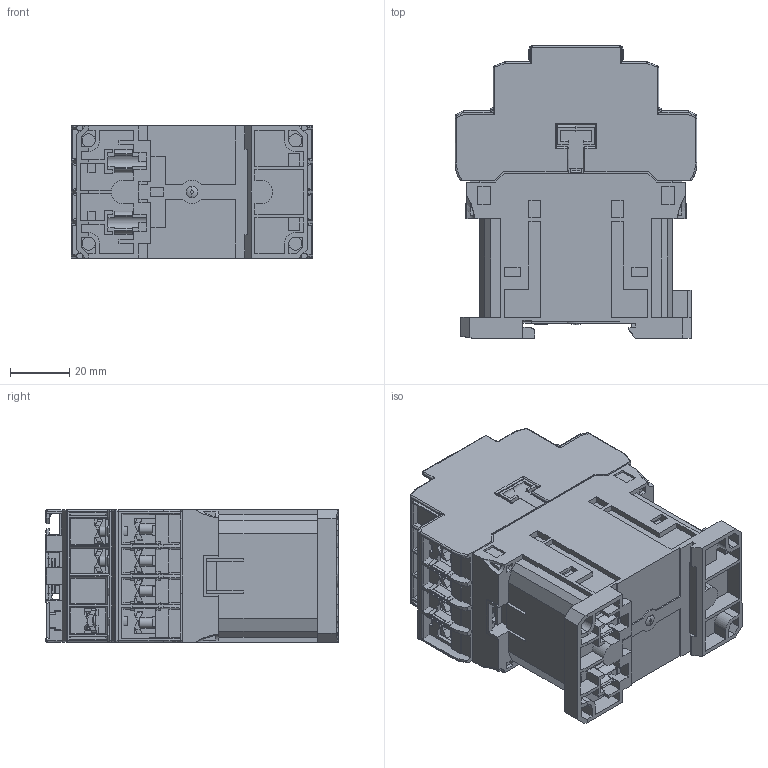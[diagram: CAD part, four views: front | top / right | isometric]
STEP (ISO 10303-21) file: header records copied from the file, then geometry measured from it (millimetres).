
FILE_DESCRIPTION (( 'STEP AP203' ), '1' );
FILE_NAME ('CWB9...18 4P DC.STEP', '2020-11-27T11:46:49', ( 'Usuário do Windows' ), ( 'WEG Equipamentos Elétricos' ), 'SwSTEP 2.0', 'SolidWorks 2018', '' );
FILE_SCHEMA (( 'CONFIG_CONTROL_DESIGN' ));
Products named in the file (2): CWB9...18 4P DC
Bounding box: 81.8 x 98.95 x 44.8 mm (x, y, z)
Volume: 261127.2 mm3; surface area: 83578.8 mm2
Topology: 42 solids, 49 shells, 5580 faces, 14983 edges, 9491 vertices
Faces by surface type: plane 3218, cylinder 1320, bspline 416, torus 332, cone 282, sphere 12
Entity records: 181104 total; most frequent: CARTESIAN_POINT 48046, ORIENTED_EDGE 29870, DIRECTION 25065, EDGE_CURVE 14935, VERTEX_POINT 9491, VECTOR 9389, LINE 9389, AXIS2_PLACEMENT_3D 7838
